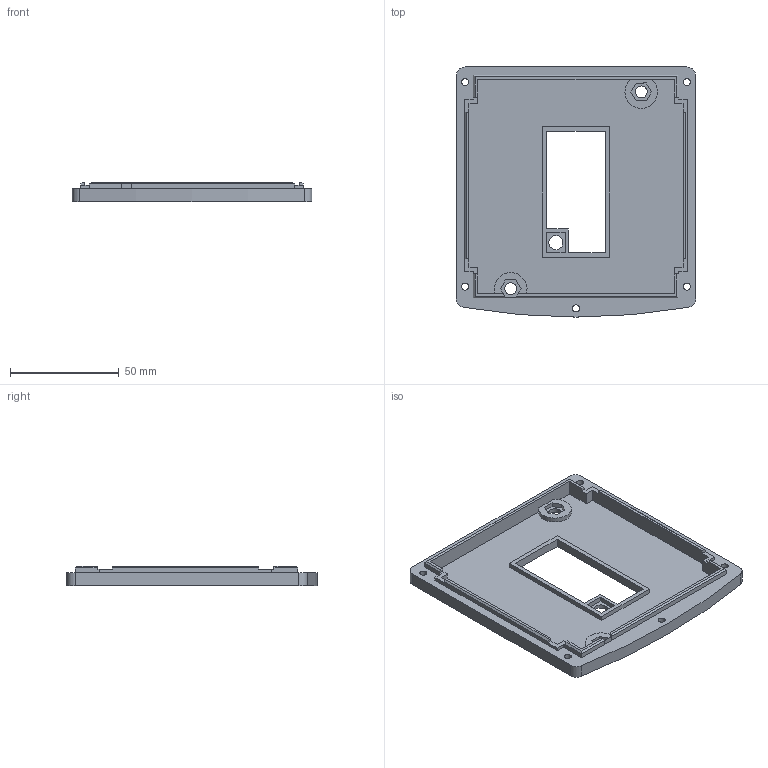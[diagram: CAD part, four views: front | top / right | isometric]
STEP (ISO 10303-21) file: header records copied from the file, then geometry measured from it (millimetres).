
FILE_DESCRIPTION(/* description */ ('STEP AP242','CAx-IF Rec.Pracs.---Representation and Presentation of Product Manufacturing Information (PMI)---4.0---2014-10-13','CAx-IF Rec.Pracs.---3D Tessellated Geometry---0.4---2014-09-14','2;1'),/* implementation_level */ '2;1');
FILE_NAME(/* name */ '676d3c93a686895630a1f6b1',/* time_stamp */ '2024-12-26T11:23:00Z',/* author */ (''),/* organization */ (''),/* preprocessor_version */ 'ST-DEVELOPER v20',/* originating_system */ 'ONSHAPE BY PTC INC, 1.191',/* authorisation */ ' ');
FILE_SCHEMA (('AP242_MANAGED_MODEL_BASED_3D_ENGINEERING_MIM_LF { 1 0 10303 442 1 1 4 }'));
Length unit declared in the file: metre
Products named in the file (1): Back Case 2
Bounding box: 110 x 115 x 9 mm (x, y, z)
Volume: 35093.5 mm3; surface area: 29974.8 mm2
Topology: 1 solids, 1 shells, 108 faces, 297 edges, 195 vertices
Faces by surface type: plane 88, cylinder 15, cone 5
Full cylindrical faces by diameter (mm): 3.2 x5, 5.5 x2, 6.5 x1
Entity records: 3377 total; most frequent: CARTESIAN_POINT 588, ORIENTED_EDGE 568, DIRECTION 537, EDGE_CURVE 284, LINE 249, VECTOR 249, VERTEX_POINT 195, AXIS2_PLACEMENT_3D 144
